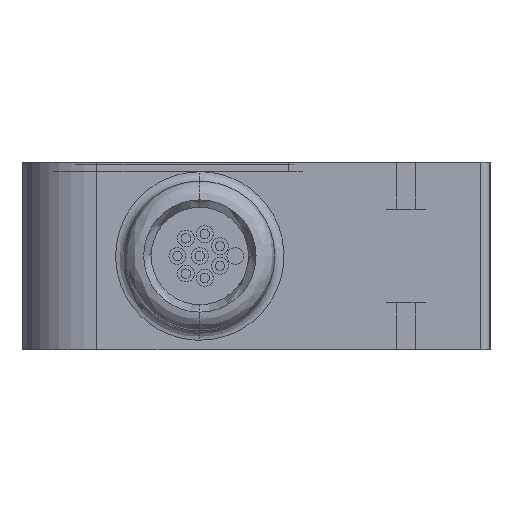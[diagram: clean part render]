
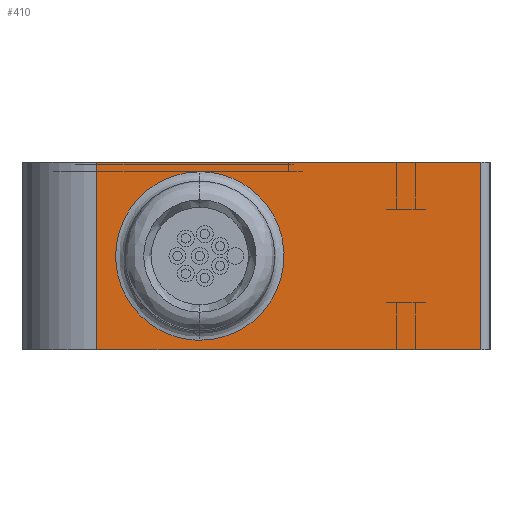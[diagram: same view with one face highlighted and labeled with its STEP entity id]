
A CAD part, left-side view. The second image highlights one B-rep face of the part: STEP entity #410.
In plain terms, the highlighted planar face has unit normal (-1, 0, 0).
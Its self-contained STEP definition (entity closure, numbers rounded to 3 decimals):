
#280 = EDGE_CURVE ( 'NONE', #824, #795, #4651, .T. ) ;
#410 = ADVANCED_FACE ( 'NONE', ( #4829, #4826 ), #3531, .F. ) ;
#647 = VERTEX_POINT ( 'NONE', #5568 ) ;
#664 = VERTEX_POINT ( 'NONE', #5574 ) ;
#683 = VERTEX_POINT ( 'NONE', #5626 ) ;
#717 = VERTEX_POINT ( 'NONE', #5628 ) ;
#795 = VERTEX_POINT ( 'NONE', #5690 ) ;
#824 = VERTEX_POINT ( 'NONE', #5759 ) ;
#1062 = EDGE_CURVE ( 'NONE', #664, #647, #5118, .T. ) ;
#1079 = EDGE_CURVE ( 'NONE', #795, #824, #4655, .T. ) ;
#1105 = EDGE_CURVE ( 'NONE', #683, #664, #5181, .T. ) ;
#1142 = EDGE_CURVE ( 'NONE', #717, #647, #5251, .T. ) ;
#1160 = EDGE_CURVE ( 'NONE', #717, #683, #4680, .T. ) ;
#1455 = AXIS2_PLACEMENT_3D ( 'NONE', #3566, #3563, #3548 ) ;
#2033 = EDGE_LOOP ( 'NONE', ( #4532, #4516, #4579, #4523 ) ) ;
#2042 = EDGE_LOOP ( 'NONE', ( #4541, #4598 ) ) ;
#3193 = CARTESIAN_POINT ( 'NONE',  ( 31.34, 15.5, 4.5 ) ) ;
#3200 = CARTESIAN_POINT ( 'NONE',  ( 31.34, 24.5, 4.5 ) ) ;
#3221 = CARTESIAN_POINT ( 'NONE',  ( 31.34, 15.5, -4.5 ) ) ;
#3248 = CARTESIAN_POINT ( 'NONE',  ( 31.34, 24.5, -4.5 ) ) ;
#3531 = PLANE ( 'NONE',  #1455 ) ;
#3548 = DIRECTION ( 'NONE',  ( 0., 0., -1. ) ) ;
#3563 = DIRECTION ( 'NONE',  ( 1., 0., 0. ) ) ;
#3566 = CARTESIAN_POINT ( 'NONE',  ( 31.34, 21., 5. ) ) ;
#4516 = ORIENTED_EDGE ( 'NONE', *, *, #1105, .F. ) ;
#4523 = ORIENTED_EDGE ( 'NONE', *, *, #1142, .T. ) ;
#4532 = ORIENTED_EDGE ( 'NONE', *, *, #1062, .F. ) ;
#4541 = ORIENTED_EDGE ( 'NONE', *, *, #1079, .F. ) ;
#4579 = ORIENTED_EDGE ( 'NONE', *, *, #1160, .F. ) ;
#4598 = ORIENTED_EDGE ( 'NONE', *, *, #280, .F. ) ;
#4651 =( BOUNDED_CURVE ( )  B_SPLINE_CURVE ( 3, ( #3193, #3200, #3248, #3221 ),
 .UNSPECIFIED., .F., .T. ) 
 B_SPLINE_CURVE_WITH_KNOTS ( ( 4, 4 ),
 ( 0.5, 1. ),
 .UNSPECIFIED. ) 
 CURVE ( )  GEOMETRIC_REPRESENTATION_ITEM ( )  RATIONAL_B_SPLINE_CURVE ( ( 1., 0.333, 0.333, 1. ) ) 
 REPRESENTATION_ITEM ( '' )  );
#4655 =( BOUNDED_CURVE ( )  B_SPLINE_CURVE ( 3, ( #5953, #5934, #5947, #5942 ),
 .UNSPECIFIED., .F., .T. ) 
 B_SPLINE_CURVE_WITH_KNOTS ( ( 4, 4 ),
 ( 0., 0.5 ),
 .UNSPECIFIED. ) 
 CURVE ( )  GEOMETRIC_REPRESENTATION_ITEM ( )  RATIONAL_B_SPLINE_CURVE ( ( 1., 0.333, 0.333, 1. ) ) 
 REPRESENTATION_ITEM ( '' )  );
#4680 = LINE ( 'NONE', #6116, #4715 ) ;
#4715 = VECTOR ( 'NONE', #6118, 1000. ) ;
#4826 = FACE_BOUND ( 'NONE', #2042, .T. ) ;
#4829 = FACE_OUTER_BOUND ( 'NONE', #2033, .T. ) ;
#5113 = VECTOR ( 'NONE', #5890, 1000. ) ;
#5118 = LINE ( 'NONE', #5916, #5113 ) ;
#5181 = LINE ( 'NONE', #5983, #5208 ) ;
#5208 = VECTOR ( 'NONE', #6017, 1000. ) ;
#5237 = VECTOR ( 'NONE', #6087, 1000. ) ;
#5251 = LINE ( 'NONE', #6113, #5237 ) ;
#5568 = CARTESIAN_POINT ( 'NONE',  ( 31.34, 0.5, -5. ) ) ;
#5574 = CARTESIAN_POINT ( 'NONE',  ( 31.34, 0.5, 5. ) ) ;
#5626 = CARTESIAN_POINT ( 'NONE',  ( 31.34, 21., 5. ) ) ;
#5628 = CARTESIAN_POINT ( 'NONE',  ( 31.34, 21., -5. ) ) ;
#5690 = CARTESIAN_POINT ( 'NONE',  ( 31.34, 15.5, -4.5 ) ) ;
#5759 = CARTESIAN_POINT ( 'NONE',  ( 31.34, 15.5, 4.5 ) ) ;
#5890 = DIRECTION ( 'NONE',  ( 0., 0., -1. ) ) ;
#5916 = CARTESIAN_POINT ( 'NONE',  ( 31.34, 0.5, 5. ) ) ;
#5934 = CARTESIAN_POINT ( 'NONE',  ( 31.34, 6.5, -4.5 ) ) ;
#5942 = CARTESIAN_POINT ( 'NONE',  ( 31.34, 15.5, 4.5 ) ) ;
#5947 = CARTESIAN_POINT ( 'NONE',  ( 31.34, 6.5, 4.5 ) ) ;
#5953 = CARTESIAN_POINT ( 'NONE',  ( 31.34, 15.5, -4.5 ) ) ;
#5983 = CARTESIAN_POINT ( 'NONE',  ( 31.34, 21., 5. ) ) ;
#6017 = DIRECTION ( 'NONE',  ( 0., -1., 0. ) ) ;
#6087 = DIRECTION ( 'NONE',  ( 0., -1., 0. ) ) ;
#6113 = CARTESIAN_POINT ( 'NONE',  ( 31.34, 21., -5. ) ) ;
#6116 = CARTESIAN_POINT ( 'NONE',  ( 31.34, 21., 5. ) ) ;
#6118 = DIRECTION ( 'NONE',  ( 0., 0., 1. ) ) ;
